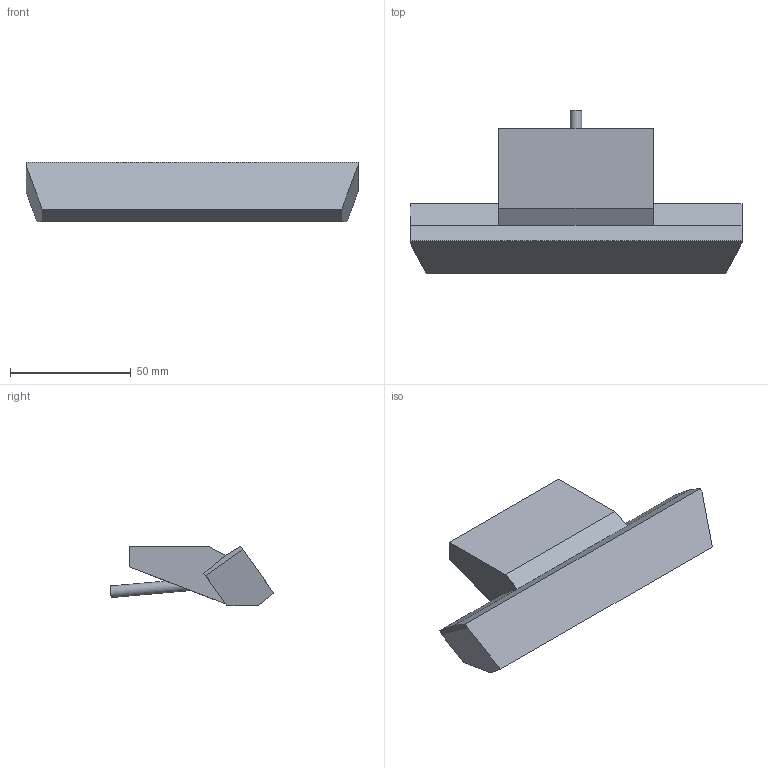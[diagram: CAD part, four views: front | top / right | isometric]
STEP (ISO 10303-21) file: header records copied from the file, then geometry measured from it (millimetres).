
FILE_DESCRIPTION( ( 'STEP AP214' ), '1' );
FILE_NAME( 'C:/Users/KOSH/Desktop/Active task/Connect Task/Office Delta/Export/New folder/9277919.stp', '2020-10-28T11:38:19', ( '' ), ( '' ), ' ', 'PARTsolutions', ' ' );
FILE_SCHEMA( ( 'AUTOMOTIVE_DESIGN { 1 0 10303 214 1 1 1 1 }' ) );
Length unit declared in the file: millimetre
Products named in the file (1): _9277919
Bounding box: 137.22 x 67.62 x 24.55 mm (x, y, z)
Volume: 89979.7 mm3; surface area: 17053.6 mm2
Topology: 1 solids, 1 shells, 20 faces, 49 edges, 32 vertices
Faces by surface type: plane 19, cylinder 1
Full cylindrical faces by diameter (mm): 4.8 x1
Entity records: 750 total; most frequent: CARTESIAN_POINT 101, ORIENTED_EDGE 96, DIRECTION 92, EDGE_CURVE 48, LINE 46, VECTOR 46, VERTEX_POINT 32, AXIS2_PLACEMENT_3D 23
